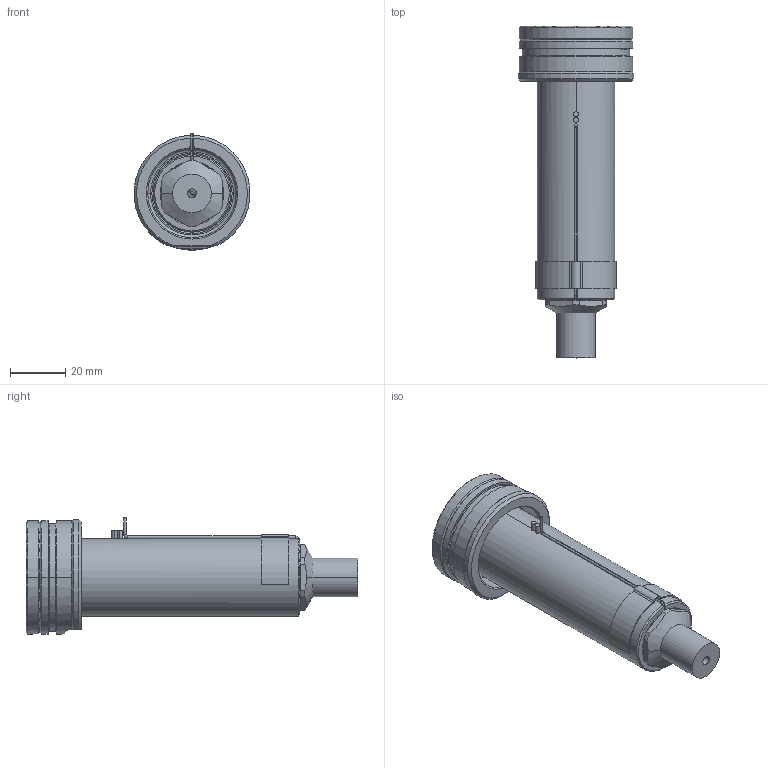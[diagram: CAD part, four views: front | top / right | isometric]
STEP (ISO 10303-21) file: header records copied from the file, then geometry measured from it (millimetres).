
FILE_DESCRIPTION((''),'2;1');
FILE_NAME('EO10_PG-FBE_WR_090_SW','2024-02-19T11:59:59',('sundharh'),(''),'CREO PARAMETRIC BY PTC INC, 2023154','CREO PARAMETRIC BY PTC INC, 2023154','');
FILE_SCHEMA(('CONFIG_CONTROL_DESIGN'));
Length unit declared in the file: millimetre
Products named in the file (1): EO10_PG-FBE_WR_090_SW
Bounding box: 41.85 x 120 x 42.02 mm (x, y, z)
Volume: 69181.5 mm3; surface area: 20773.6 mm2
Topology: 1 solids, 1 shells, 203 faces, 548 edges, 340 vertices
Faces by surface type: cylinder 80, plane 59, cone 41, torus 17, bspline 3, sphere 3
Entity records: 7412 total; most frequent: CARTESIAN_POINT 2202, DIRECTION 1138, ORIENTED_EDGE 1088, EDGE_CURVE 544, AXIS2_PLACEMENT_3D 474, VERTEX_POINT 340, CIRCLE 274, EDGE_LOOP 220
